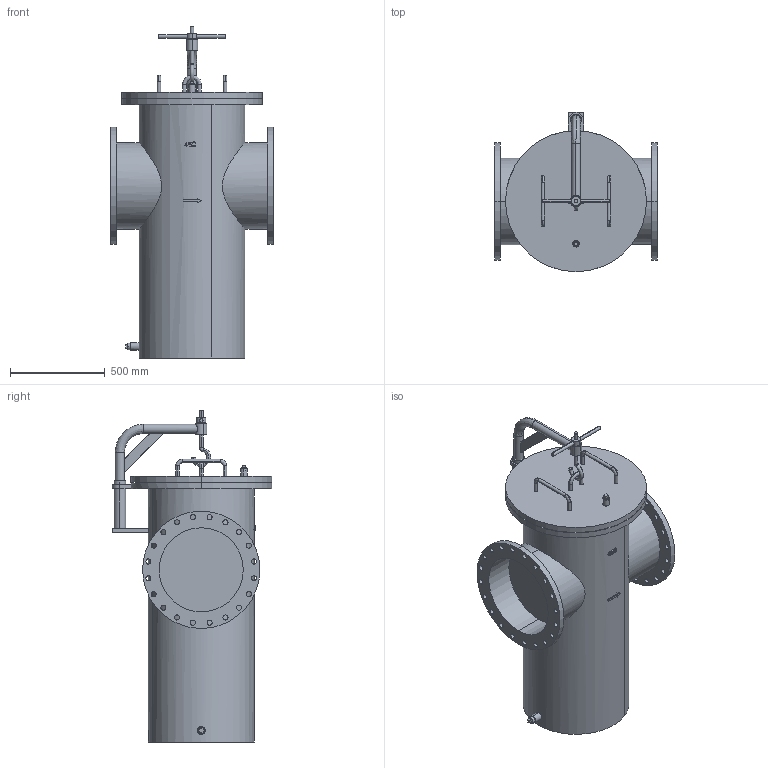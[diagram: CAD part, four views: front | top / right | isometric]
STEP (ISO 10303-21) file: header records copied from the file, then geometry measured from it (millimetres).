
FILE_DESCRIPTION( (''), '2;1');
FILE_NAME ('PC1056.7720.SU-6(450A)_18623.stp','2024-07-30T10:36:25',(''),(''),'spGate 19.8.4 (****-****-****-****)','','');
FILE_SCHEMA (('AUTOMOTIVE_DESIGN'));
Length unit declared in the file: millimetre
Products named in the file (30): Assembly; SU6(450A)本体P; PC1056-prt1; PC1056-prt2; PC1056-prt3; PC1056-prt4; PC1056-prt5; 450Aダビッド_M5; PC1056-prt7; PC1056-prt8; PC1056-prt9; PC1056-prt10; PC1056-prt11; PC1056-prt12; 450A取っ手_M10; PC1056-prt14; PC1056-prt15; PC1056-prt16; PC1056-prt17; PC1056-prt18; 450Aふた用ふっく_M4; プラグ　20A; plug-25A-JISB2301; PC1056-prt22; PC1056-prt23; PC1056-prt24; 400Aカギ形フック_M5; 400Aカギ形フック_M6; 400Aカギ形フック_M7; 400Aハンドル
Assembly tree (33 placements, depth 2):
  Assembly
    SU6(450A)本体P
    PC1056-prt1
    PC1056-prt2
    PC1056-prt3
    PC1056-prt4
    PC1056-prt5
    450Aダビッド_M5
    PC1056-prt7  x2
    PC1056-prt8  x2
    PC1056-prt9  x2
    PC1056-prt10
    PC1056-prt11
    PC1056-prt12
    450A取っ手_M10  x2
    PC1056-prt14
    PC1056-prt15
    PC1056-prt16
    PC1056-prt17
    PC1056-prt18
    450Aふた用ふっく_M4
    プラグ　20A
    plug-25A-JISB2301
    PC1056-prt22
    PC1056-prt23
    PC1056-prt24
    400Aカギ形フック_M5
    400Aカギ形フック_M6
    400Aカギ形フック_M7
    400Aハンドル
Bounding box: 860 x 842.5 x 1755 mm (x, y, z)
Volume: 379912094.6 mm3; surface area: 5616297 mm2
Topology: 11 solids, 11 shells, 351 faces, 876 edges, 600 vertices
Faces by surface type: cylinder 199, plane 103, bspline 49
Entity records: 21255 total; most frequent: CARTESIAN_POINT 5975, DIRECTION 1671, ORIENTED_EDGE 1646, COLOUR_RGB 1191, PRESENTATION_STYLE_ASSIGNMENT 1191, STYLED_ITEM 1191, DRAUGHTING_PRE_DEFINED_CURVE_FONT 842, CURVE_STYLE 842
